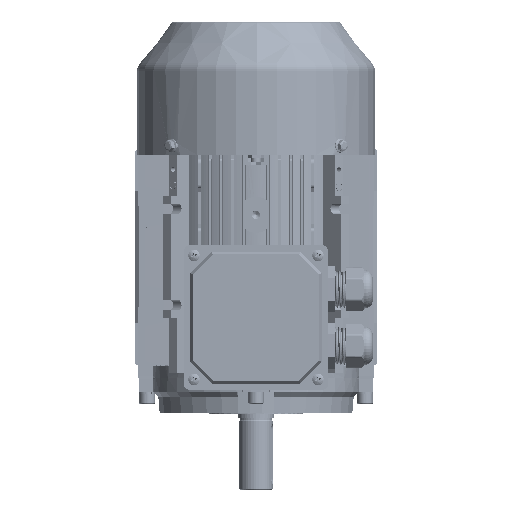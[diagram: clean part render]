
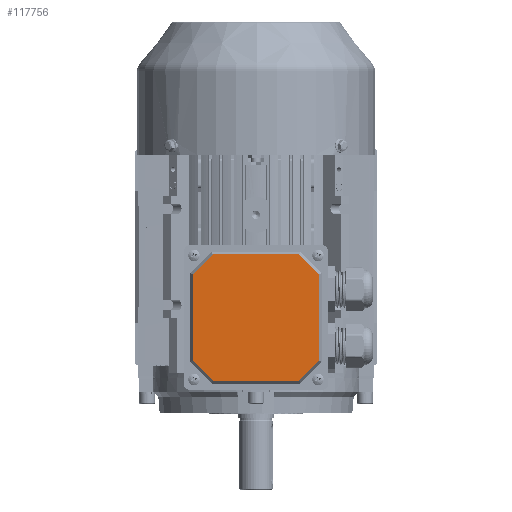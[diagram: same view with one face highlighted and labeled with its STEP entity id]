
A CAD part, top view. The second image highlights one B-rep face of the part: STEP entity #117756.
In plain terms, the highlighted planar face has unit normal (0, 0, 1) as drawn and (0, 0, -1) by its records, which use the part's own axes.
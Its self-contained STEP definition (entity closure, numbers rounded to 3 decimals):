
#550 = CARTESIAN_POINT ( 'NONE',  ( 0., -52.536, -4. ) ) ;
#2097 = LINE ( 'NONE', #117550, #77439 ) ;
#3496 = DIRECTION ( 'NONE',  ( -1., 0., 0. ) ) ;
#6740 = LINE ( 'NONE', #84338, #75915 ) ;
#11150 = VERTEX_POINT ( 'NONE', #64186 ) ;
#12624 = EDGE_CURVE ( 'NONE', #78533, #112788, #6740, .T. ) ;
#14341 = AXIS2_PLACEMENT_3D ( 'NONE', #20192, #118554, #59824 ) ;
#15654 = VECTOR ( 'NONE', #3496, 1000. ) ;
#18898 = LINE ( 'NONE', #27509, #41972 ) ;
#20107 = CARTESIAN_POINT ( 'NONE',  ( 35.903, 52.536, -4. ) ) ;
#20192 = CARTESIAN_POINT ( 'NONE',  ( 0., 0., -4. ) ) ;
#21095 = VERTEX_POINT ( 'NONE', #57978 ) ;
#21236 = ORIENTED_EDGE ( 'NONE', *, *, #89680, .F. ) ;
#24116 = EDGE_CURVE ( 'NONE', #125726, #11150, #90990, .T. ) ;
#27509 = CARTESIAN_POINT ( 'NONE',  ( -44.22, 44.22, -4. ) ) ;
#28630 = CARTESIAN_POINT ( 'NONE',  ( 44.22, 44.22, -4. ) ) ;
#32109 = EDGE_CURVE ( 'NONE', #77013, #125726, #81911, .T. ) ;
#38939 = DIRECTION ( 'NONE',  ( -0.707, 0.707, 0. ) ) ;
#41972 = VECTOR ( 'NONE', #66690, 1000. ) ;
#49931 = PLANE ( 'NONE',  #14341 ) ;
#51565 = ORIENTED_EDGE ( 'NONE', *, *, #109943, .F. ) ;
#52279 = CARTESIAN_POINT ( 'NONE',  ( -52.536, 0., -4. ) ) ;
#52603 = LINE ( 'NONE', #56963, #101709 ) ;
#55825 = VECTOR ( 'NONE', #38939, 1000. ) ;
#56403 = LINE ( 'NONE', #550, #82491 ) ;
#56963 = CARTESIAN_POINT ( 'NONE',  ( 52.536, 0., -4. ) ) ;
#57048 = ORIENTED_EDGE ( 'NONE', *, *, #115892, .F. ) ;
#57978 = CARTESIAN_POINT ( 'NONE',  ( -52.536, 35.903, -4. ) ) ;
#59418 = DIRECTION ( 'NONE',  ( 1., 0., 0. ) ) ;
#59824 = DIRECTION ( 'NONE',  ( 1., 0., 0. ) ) ;
#62186 = DIRECTION ( 'NONE',  ( 0., -1., 0. ) ) ;
#62386 = CARTESIAN_POINT ( 'NONE',  ( 0., 52.536, -4. ) ) ;
#62791 = ORIENTED_EDGE ( 'NONE', *, *, #65707, .F. ) ;
#63016 = ORIENTED_EDGE ( 'NONE', *, *, #12624, .F. ) ;
#64186 = CARTESIAN_POINT ( 'NONE',  ( -35.903, 52.536, -4. ) ) ;
#65707 = EDGE_CURVE ( 'NONE', #112788, #77013, #52603, .T. ) ;
#66690 = DIRECTION ( 'NONE',  ( -0.707, -0.707, 0. ) ) ;
#67532 = CARTESIAN_POINT ( 'NONE',  ( -35.903, -52.536, -4. ) ) ;
#68713 = DIRECTION ( 'NONE',  ( 0.707, -0.707, 0. ) ) ;
#71621 = LINE ( 'NONE', #52279, #94589 ) ;
#75915 = VECTOR ( 'NONE', #83482, 1000. ) ;
#77013 = VERTEX_POINT ( 'NONE', #118050 ) ;
#77439 = VECTOR ( 'NONE', #68713, 1000. ) ;
#78533 = VERTEX_POINT ( 'NONE', #106896 ) ;
#81911 = LINE ( 'NONE', #28630, #55825 ) ;
#82491 = VECTOR ( 'NONE', #59418, 1000. ) ;
#83482 = DIRECTION ( 'NONE',  ( 0.707, 0.707, 0. ) ) ;
#84338 = CARTESIAN_POINT ( 'NONE',  ( 44.22, -44.22, -4. ) ) ;
#89611 = CARTESIAN_POINT ( 'NONE',  ( 52.536, -35.903, -4. ) ) ;
#89680 = EDGE_CURVE ( 'NONE', #11150, #21095, #18898, .T. ) ;
#90990 = LINE ( 'NONE', #62386, #15654 ) ;
#92374 = VERTEX_POINT ( 'NONE', #67532 ) ;
#94589 = VECTOR ( 'NONE', #62186, 1000. ) ;
#95281 = ORIENTED_EDGE ( 'NONE', *, *, #112221, .F. ) ;
#99193 = ORIENTED_EDGE ( 'NONE', *, *, #32109, .F. ) ;
#101709 = VECTOR ( 'NONE', #125610, 1000. ) ;
#106896 = CARTESIAN_POINT ( 'NONE',  ( 35.903, -52.536, -4. ) ) ;
#109943 = EDGE_CURVE ( 'NONE', #21095, #115616, #71621, .T. ) ;
#112221 = EDGE_CURVE ( 'NONE', #115616, #92374, #2097, .T. ) ;
#112788 = VERTEX_POINT ( 'NONE', #89611 ) ;
#114785 = CARTESIAN_POINT ( 'NONE',  ( -52.536, -35.903, -4. ) ) ;
#115616 = VERTEX_POINT ( 'NONE', #114785 ) ;
#115892 = EDGE_CURVE ( 'NONE', #92374, #78533, #56403, .T. ) ;
#117550 = CARTESIAN_POINT ( 'NONE',  ( -44.22, -44.22, -4. ) ) ;
#117756 = ADVANCED_FACE ( 'NONE', ( #120396 ), #49931, .F. ) ;
#118050 = CARTESIAN_POINT ( 'NONE',  ( 52.536, 35.903, -4. ) ) ;
#118554 = DIRECTION ( 'NONE',  ( 0., 0., 1. ) ) ;
#120396 = FACE_OUTER_BOUND ( 'NONE', #124971, .T. ) ;
#120909 = ORIENTED_EDGE ( 'NONE', *, *, #24116, .F. ) ;
#124971 = EDGE_LOOP ( 'NONE', ( #62791, #63016, #57048, #95281, #51565, #21236, #120909, #99193 ) ) ;
#125610 = DIRECTION ( 'NONE',  ( 0., 1., 0. ) ) ;
#125726 = VERTEX_POINT ( 'NONE', #20107 ) ;
